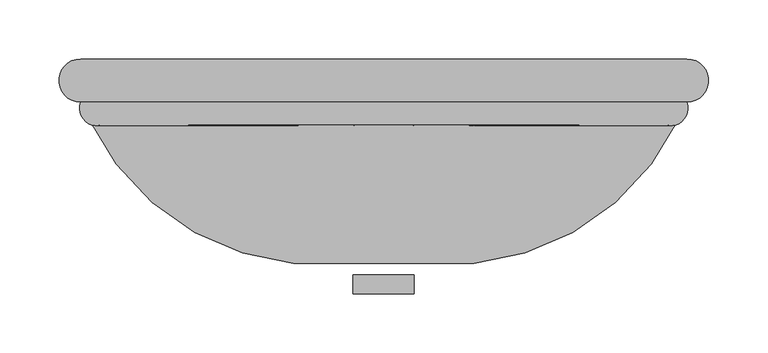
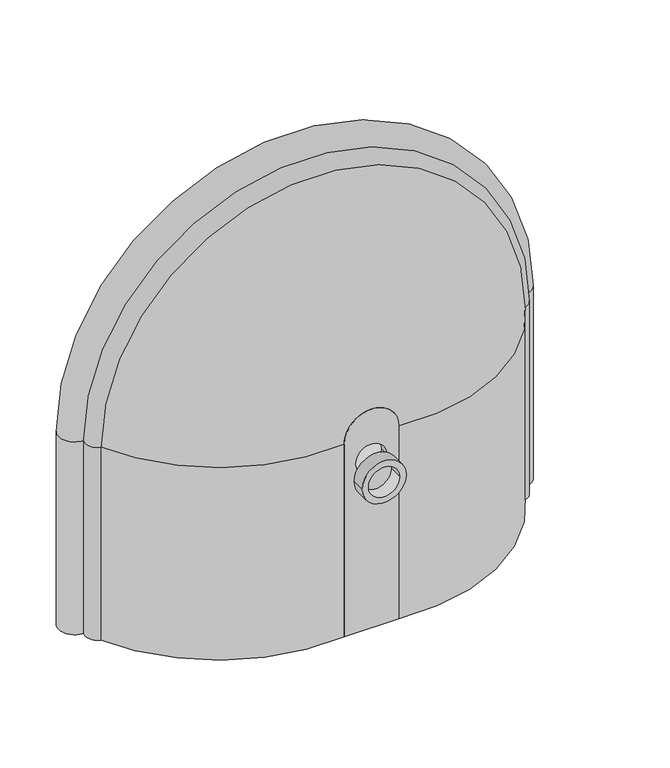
"""IFC4 building model written with IfcOpenShell, lengths in millimetres: flow terminal geometry, Deca_Lavatorio Belle Epoque_L.2_Coluna : Pia Banho."""

from ifc_helpers import new_model, si_unit, point, frame, frame_2d, origin, place, context, project, spatial, polyline, circle_curve, ellipse_curve, trimmed, segment, composite_curve, outline, extrude, source, transform, mapped, element, save
from ifc_brep_helpers import plane_surface, cylinder_surface, revolved_surface, advanced_brep


def flow_terminal_b1bb3d39(model_context):
    return source(origin(), model_context, "Body", "SolidModel", [
        extrude(outline(composite_curve([segment(polyline([(0.0, -31.8383106), (0.0, 32.1836787), (237.4079593, 32.1836787)]), True, "CONTINUOUS"), segment(trimmed(circle_curve(frame_2d((237.4079593, 0.172684)), 32.0109946), [point((237.4079593, 32.1836787))], [point((237.4079593, -31.8383106))], False, "CARTESIAN"), True, "CONTINUOUS"), segment(polyline([(237.4079593, -31.8383106), (0.0, -31.8383106)]), True, "CONTINUOUS")], self_intersect=False), holes=[composite_curve([segment(trimmed(circle_curve(frame_2d((208.1351035, -0.15625)), 18.1370047), [point((208.1351035, -18.2932547))], [point((208.1351035, 17.9807547))], True, "CARTESIAN"), True, "CONTINUOUS"), segment(trimmed(circle_curve(frame_2d((208.1351035, -0.15625)), 18.1370047), [point((208.1351035, 17.9807547))], [point((208.1351035, -18.2932547))], True, "CARTESIAN"), True, "CONTINUOUS")], self_intersect=False)]), frame((0.0, -155.6536343, 0.0), z_axis=(0.0, 1.0, 0.0), x_axis=(0.0, 0.0, 1.0)), (0.0, 0.0, 1.0), 10.0566519),
        extrude(outline(composite_curve([segment(trimmed(circle_curve(frame_2d((-54.2505718, 59.6905373)), 206.5073248), [point((-31.8383106, -145.5969824))], [point((-249.8810518, -6.4456139))], False, "CARTESIAN"), True, "CONTINUOUS"), segment(polyline([(-249.8810518, -6.4456139), (250.2264198, -6.4456139)]), True, "CONTINUOUS"), segment(trimmed(circle_curve(frame_2d((54.5959398, 59.6905373)), 206.5073248), [point((250.2264198, -6.4456139))], [point((32.1836787, -145.5969824))], False, "CARTESIAN"), True, "CONTINUOUS"), segment(polyline([(32.1836787, -145.5969824), (-31.8383106, -145.5969824)]), True, "CONTINUOUS")], self_intersect=False)), frame((0.0, 0.0, 133.7714132), z_axis=(0.0, 0.0, 1.0), x_axis=(1.0, 0.0, 0.0)), (0.0, 0.0, 1.0), 14.0347051),
        extrude(outline(polyline([(0.0, 238.8226147), (147.8061183, 238.8226147), (147.8061183, -238.6483189), (0.0, -238.6483189), (0.0, 238.8226147)]), holes=[composite_curve([segment(trimmed(circle_curve(frame_2d((71.34, -99.8252653)), 17.4), [point((71.34, -117.2252653))], [point((71.34, -82.4252653))], True, "CARTESIAN"), True, "CONTINUOUS"), segment(trimmed(circle_curve(frame_2d((71.34, -99.8252653)), 17.4), [point((71.34, -82.4252653))], [point((71.34, -117.2252653))], True, "CARTESIAN"), True, "CONTINUOUS")], self_intersect=False), composite_curve([segment(trimmed(circle_curve(frame_2d((71.34, 0.1747347)), 17.4959), [point((71.34, -17.3211653))], [point((71.34, 17.6706347))], True, "CARTESIAN"), True, "CONTINUOUS"), segment(trimmed(circle_curve(frame_2d((71.34, 0.1747347)), 17.4959), [point((71.34, 17.6706347))], [point((71.34, -17.3211653))], True, "CARTESIAN"), True, "CONTINUOUS")], self_intersect=False), composite_curve([segment(trimmed(circle_curve(frame_2d((71.34, 100.1747347)), 17.4), [point((71.34, 82.7747347))], [point((71.34, 117.5747347))], True, "CARTESIAN"), True, "CONTINUOUS"), segment(trimmed(circle_curve(frame_2d((71.34, 100.1747347)), 17.4), [point((71.34, 117.5747347))], [point((71.34, 82.7747347))], True, "CARTESIAN"), True, "CONTINUOUS")], self_intersect=False)]), frame((0.0, -6.4456139, 0.0), z_axis=(0.0, 1.0, 0.0), x_axis=(0.0, 0.0, 1.0)), (0.0, 0.0, 1.0), 24.2703353),
        advanced_brep(
        [(-31.8383106, -155.6536343, 0.0), (-249.6210256, -33.6143792, 0.0), (-238.4772467, -33.6143792, 0.0), (-31.8383106, -145.5969824, 0.0), (-31.8383106, -155.6536343, 237.4079593), (-249.6210256, -33.6143792, 237.4079593), (249.9663937, -33.6143792, 237.4079593), (249.9663937, -33.6143792, 0.0), (238.8226147, -33.6143792, 0.0), (238.8226147, -33.6143792, 237.4079593), (-238.4772467, -33.6143792, 237.4079593), (-31.8383106, -145.5969824, 237.4079593), (32.1836787, -155.6536343, 237.4079593), (32.1836787, -145.5969824, 237.4079593), (32.1836787, -155.6536343, 0.0), (32.1836787, -145.5969824, 0.0)],
        [
            (0, 1, circle_curve(frame((-54.2505718, 59.6905373, 0.0), z_axis=(0.0, 0.0, -1.0), x_axis=(0.0, -1.0, 0.0)), 216.5073248)),
            (1, 2),
            (2, 3, circle_curve(frame((-54.2505718, 59.6905373, 0.0), z_axis=(0.0, 0.0, 1.0), x_axis=(0.0, -1.0, 0.0)), 206.5073248)),
            (3, 0),
            (0, 4),
            (4, 5, circle_curve(frame((-54.2505718, 59.6905373, 237.4079593), z_axis=(0.0, 0.0, -1.0), x_axis=(0.0, -1.0, 0.0)), 216.5073248)),
            (5, 1),
            (5, 6, circle_curve(frame((0.172684, -33.6143792, 237.4079593), z_axis=(0.0, 1.0, 0.0), x_axis=(-1.0, 0.0, 0.0)), 249.7937097)),
            (6, 7),
            (7, 8),
            (8, 9),
            (9, 10, circle_curve(frame((0.172684, -33.6143792, 237.4079593), z_axis=(0.0, -1.0, 0.0), x_axis=(-1.0, 0.0, 0.0)), 238.6499307)),
            (10, 2),
            (10, 11, circle_curve(frame((-54.2505718, 59.6905373, 237.4079593), z_axis=(0.0, 0.0, 1.0), x_axis=(0.0, -1.0, 0.0)), 206.5073248)),
            (11, 3),
            (11, 4),
            (4, 12, circle_curve(frame((0.172684, -155.6536343, 237.4079593), z_axis=(0.0, 1.0, 0.0), x_axis=(-1.0, 0.0, 0.0)), 32.0109946)),
            (12, 6, circle_curve(frame((54.5959398, 59.6905373, 237.4079593), z_axis=(0.0, 0.0, 1.0), x_axis=(0.0, -1.0, 0.0)), 216.5073248)),
            (13, 11, circle_curve(frame((0.172684, -145.5969824, 237.4079593), z_axis=(0.0, -1.0, 0.0), x_axis=(-1.0, 0.0, 0.0)), 32.0109946)),
            (9, 13, circle_curve(frame((54.5959398, 59.6905373, 237.4079593), z_axis=(0.0, 0.0, -1.0), x_axis=(0.0, -1.0, 0.0)), 206.5073248)),
            (13, 12),
            (14, 15),
            (15, 8, circle_curve(frame((54.5959398, 59.6905373, 0.0), z_axis=(0.0, 0.0, 1.0), x_axis=(0.0, -1.0, 0.0)), 206.5073248)),
            (7, 14, circle_curve(frame((54.5959398, 59.6905373, 0.0), z_axis=(0.0, 0.0, -1.0), x_axis=(0.0, -1.0, 0.0)), 216.5073248)),
            (12, 14),
            (15, 13),
        ],
        [
            plane_surface(frame((-247.3983189, -6.4456139, 0.0), z_axis=(0.0, 0.0, -1.0), x_axis=(0.0, 1.0, 0.0))),
            cylinder_surface(frame((-54.2505718, 59.6905373, 0.0), z_axis=(0.0, 0.0, -1.0), x_axis=(0.0, -1.0, 0.0)), 216.5073248),
            plane_surface(frame((-249.6210256, -33.6143792, 0.0), z_axis=(0.0, 1.0, 0.0), x_axis=(0.0, 0.0, 1.0))),
            revolved_surface(polyline([(-54.2505718, -146.81678749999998, 237.4079593), (-54.2505718, -146.81678749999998, 0.0)]), (-54.2505718, 59.6905373, 0.0), (0.0, 0.0, 1.0)),
            plane_surface(frame((-31.8383106, -145.5969824, 0.0), z_axis=(1.0, 0.0, 0.0), x_axis=(0.0, 0.0, 1.0))),
            revolved_surface(trimmed(ellipse_curve(frame((-54.2505718, 59.6905373, 237.4079593), z_axis=(0.0, 0.0, -1.0), x_axis=(0.0, -1.0, 0.0)), 216.5073248, 216.5073248), [point((-31.8383106, -155.6536343, 237.4079593))], [point((-249.6210256, -33.6143792, 237.4079593))], True, "CARTESIAN"), (0.172684, -6.4456139, 237.4079593), (0.0, 1.0, 0.0)),
            revolved_surface(trimmed(ellipse_curve(frame((-54.2505718, 59.6905373, 237.4079593), z_axis=(0.0, 0.0, 1.0), x_axis=(0.0, -1.0, 0.0)), 206.5073248, 206.5073248), [point((-238.4772467, -33.6143792, 237.4079593))], [point((-31.8383106, -145.5969824, 237.4079593))], True, "CARTESIAN"), (0.172684, -6.4456139, 237.4079593), (0.0, 1.0, 0.0)),
            revolved_surface(polyline([(-31.838310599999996, -145.5969824, 237.4079593), (-31.838310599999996, -155.6536343, 237.4079593)]), (0.172684, -6.4456139, 237.4079593), (0.0, 1.0, 0.0)),
            plane_surface(frame((247.7436869, -6.4456139, 0.0), z_axis=(0.0, 0.0, -1.0), x_axis=(0.0, 1.0, 0.0))),
            cylinder_surface(frame((54.5959398, 59.6905373, 237.4079593), z_axis=(0.0, 0.0, 1.0), x_axis=(0.0, -1.0, 0.0)), 216.5073248),
            revolved_surface(polyline([(54.5959398, -146.81678749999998, 0.0), (54.5959398, -146.81678749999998, 237.4079593)]), (54.5959398, 59.6905373, 237.4079593), (0.0, 0.0, -1.0)),
            plane_surface(frame((32.1836787, -145.5969824, 237.4079593), z_axis=(-1.0, 0.0, 0.0), x_axis=(0.0, 0.0, -1.0))),
        ],
        [
            (0, [[1, 2, 3, 4]]),
            (1, [[-1, 5, 6, 7]]),
            (2, [[-2, -7, 8, 9, 10, 11, 12, 13]]),
            (3, [[-3, -13, 14, 15]]),
            (4, [[-4, -15, 16, -5]]),
            (5, [[-8, -6, 17, 18]]),
            (6, [[19, -14, -12, 20]]),
            (7, [[-17, -16, -19, 21]]),
            (8, [[22, 23, -10, 24]]),
            (9, [[-18, 25, -24, -9]]),
            (10, [[-20, -11, -23, 26]]),
            (11, [[-21, -26, -22, -25]]),
        ],
    ),
        advanced_brep(
        [(-256.8921894, -18.6672977, 0.0), (-256.8921894, 17.8247214, 0.0), (-238.6483189, 17.8247214, 0.0), (-238.6483189, -38.378303, 0.0), (257.2375574, -18.6672977, 0.0), (238.9936869, -38.378303, 0.0), (238.9936869, 17.8247214, 0.0), (257.2375574, 17.8247214, 0.0), (-256.8921894, -18.6672977, 237.4079593), (-256.8921894, 17.8247214, 237.4079593), (257.2375574, 17.8247214, 237.4079593), (238.9936869, 17.8247214, 237.4079593), (-238.6483189, 17.8247214, 237.4079593), (-238.6483189, -38.378303, 237.4079593), (257.2375574, -18.6672977, 237.4079593), (238.9936869, -38.378303, 237.4079593)],
        [
            (0, 1, circle_curve(frame((-256.8921894, -0.4212881, 0.0), z_axis=(0.0, 0.0, -1.0), x_axis=(0.0, -1.0, 0.0)), 18.2460096)),
            (1, 2),
            (2, 3),
            (3, 0, circle_curve(frame((-242.6160924, -23.7522746, 0.0), z_axis=(0.0, 0.0, -1.0), x_axis=(0.0, -1.0, 0.0)), 15.1546671)),
            (4, 5, circle_curve(frame((242.9614604, -23.7522746, 0.0), z_axis=(0.0, 0.0, -1.0), x_axis=(0.0, -1.0, 0.0)), 15.1546671)),
            (5, 6),
            (6, 7),
            (7, 4, circle_curve(frame((257.2375574, -0.4212881, 0.0), z_axis=(0.0, 0.0, -1.0), x_axis=(0.0, -1.0, 0.0)), 18.2460096)),
            (0, 8),
            (8, 9, circle_curve(frame((-256.8921894, -0.4212881, 237.4079593), z_axis=(0.0, 0.0, -1.0), x_axis=(0.0, -1.0, 0.0)), 18.2460096)),
            (9, 1),
            (9, 10, circle_curve(frame((0.172684, 17.8247214, 237.4079593), z_axis=(0.0, 1.0, 0.0), x_axis=(-1.0, 0.0, 0.0)), 257.0648734)),
            (10, 7),
            (6, 11),
            (11, 12, circle_curve(frame((0.172684, 17.8247214, 237.4079593), z_axis=(0.0, -1.0, 0.0), x_axis=(-1.0, 0.0, 0.0)), 238.8210029)),
            (12, 2),
            (12, 13),
            (13, 3),
            (13, 8, circle_curve(frame((-242.6160924, -23.7522746, 237.4079593), z_axis=(0.0, 0.0, -1.0), x_axis=(0.0, -1.0, 0.0)), 15.1546671)),
            (8, 14, circle_curve(frame((0.172684, -18.6672977, 237.4079593), z_axis=(0.0, 1.0, 0.0), x_axis=(-1.0, 0.0, 0.0)), 257.0648734)),
            (14, 10, circle_curve(frame((257.2375574, -0.4212881, 237.4079593), z_axis=(0.0, 0.0, 1.0), x_axis=(0.0, -1.0, 0.0)), 18.2460096)),
            (15, 13, circle_curve(frame((0.172684, -38.378303, 237.4079593), z_axis=(0.0, -1.0, 0.0), x_axis=(-1.0, 0.0, 0.0)), 238.8210029)),
            (11, 15),
            (15, 14, circle_curve(frame((242.9614604, -23.7522746, 237.4079593), z_axis=(0.0, 0.0, 1.0), x_axis=(0.0, -1.0, 0.0)), 15.1546671)),
            (14, 4),
            (5, 15),
        ],
        [
            plane_surface(frame((-274.4418821, -6.4456139, 0.0), z_axis=(0.0, 0.0, -1.0), x_axis=(0.0, 1.0, 0.0))),
            plane_surface(frame((274.7872501, -6.4456139, 0.0), z_axis=(0.0, 0.0, -1.0), x_axis=(0.0, 1.0, 0.0))),
            cylinder_surface(frame((-256.8921894, -0.4212881, 0.0), z_axis=(0.0, 0.0, -1.0), x_axis=(0.0, -1.0, 0.0)), 18.2460096),
            plane_surface(frame((-256.8921894, 17.8247214, 0.0), z_axis=(0.0, 1.0, 0.0), x_axis=(0.0, 0.0, 1.0))),
            plane_surface(frame((-238.6483189, 17.8247214, 0.0), z_axis=(1.0, 0.0, 0.0), x_axis=(0.0, 0.0, 1.0))),
            cylinder_surface(frame((-242.6160924, -23.7522746, 0.0), z_axis=(0.0, 0.0, -1.0), x_axis=(0.0, -1.0, 0.0)), 15.1546671),
            revolved_surface(trimmed(ellipse_curve(frame((-256.8921894, -0.4212881, 237.4079593), z_axis=(0.0, 0.0, -1.0), x_axis=(0.0, -1.0, 0.0)), 18.2460096, 18.2460096), [point((-256.8921894, -18.6672977, 237.4079593))], [point((-256.8921894, 17.8247214, 237.4079593))], True, "CARTESIAN"), (0.172684, -6.4456139, 237.4079593), (0.0, 1.0, 0.0)),
            revolved_surface(polyline([(-238.6483189, 17.8247214, 237.4079593), (-238.6483189, -38.378303, 237.4079593)]), (0.172684, -6.4456139, 237.4079593), (0.0, 1.0, 0.0)),
            revolved_surface(trimmed(ellipse_curve(frame((-242.6160924, -23.7522746, 237.4079593), z_axis=(0.0, 0.0, -1.0), x_axis=(0.0, -1.0, 0.0)), 15.1546671, 15.1546671), [point((-238.6483189, -38.378303, 237.4079593))], [point((-256.8921894, -18.6672977, 237.4079593))], True, "CARTESIAN"), (0.172684, -6.4456139, 237.4079593), (0.0, 1.0, 0.0)),
            cylinder_surface(frame((257.2375574, -0.4212881, 237.4079593), z_axis=(0.0, 0.0, 1.0), x_axis=(0.0, -1.0, 0.0)), 18.2460096),
            plane_surface(frame((238.9936869, 17.8247214, 237.4079593), z_axis=(-1.0, 0.0, 0.0), x_axis=(0.0, 0.0, -1.0))),
            cylinder_surface(frame((242.9614604, -23.7522746, 237.4079593), z_axis=(0.0, 0.0, 1.0), x_axis=(0.0, -1.0, 0.0)), 15.1546671),
        ],
        [
            (0, [[1, 2, 3, 4]]),
            (1, [[5, 6, 7, 8]]),
            (2, [[-1, 9, 10, 11]]),
            (3, [[-2, -11, 12, 13, -7, 14, 15, 16]]),
            (4, [[-3, -16, 17, 18]]),
            (5, [[-4, -18, 19, -9]]),
            (6, [[-12, -10, 20, 21]]),
            (7, [[22, -17, -15, 23]]),
            (8, [[-20, -19, -22, 24]]),
            (9, [[-21, 25, -8, -13]]),
            (10, [[-23, -14, -6, 26]]),
            (11, [[-24, -26, -5, -25]]),
        ],
    ),
        extrude(outline(composite_curve([segment(trimmed(circle_curve(frame_2d((195.3061183, 0.0)), 25.6868702), [point((195.3061183, -25.6868702))], [point((195.3061183, 25.6868702))], False, "CARTESIAN"), True, "CONTINUOUS"), segment(trimmed(circle_curve(frame_2d((195.3061183, 0.0)), 25.6868702), [point((195.3061183, 25.6868702))], [point((195.3061183, -25.6868702))], False, "CARTESIAN"), True, "CONTINUOUS")], self_intersect=False), holes=[composite_curve([segment(trimmed(circle_curve(frame_2d((195.3061183, 0.0)), 18.1370047), [point((195.3061183, -18.1370047))], [point((195.3061183, 18.1370047))], True, "CARTESIAN"), True, "CONTINUOUS"), segment(trimmed(circle_curve(frame_2d((195.3061183, 0.0)), 18.1370047), [point((195.3061183, 18.1370047))], [point((195.3061183, -18.1370047))], True, "CARTESIAN"), True, "CONTINUOUS")], self_intersect=False)]), frame((0.0, -181.4456139, 0.0), z_axis=(0.0, 1.0, 0.0), x_axis=(0.0, 0.0, 1.0)), (0.0, 0.0, 1.0), 16.2474886),
        extrude(outline(composite_curve([segment(trimmed(circle_curve(frame_2d((71.34, -99.8252653)), 17.4), [point((71.34, -117.2252653))], [point((71.34, -82.4252653))], False, "CARTESIAN"), True, "CONTINUOUS"), segment(trimmed(circle_curve(frame_2d((71.34, -99.8252653)), 17.4), [point((71.34, -82.4252653))], [point((71.34, -117.2252653))], False, "CARTESIAN"), True, "CONTINUOUS")], self_intersect=False)), frame((0.0, -6.4456139, 0.0), z_axis=(0.0, 1.0, 0.0), x_axis=(0.0, 0.0, 1.0)), (0.0, 0.0, 1.0), 24.2703353),
        extrude(outline(composite_curve([segment(trimmed(circle_curve(frame_2d((71.34, 100.1747347)), 17.4), [point((71.34, 82.7747347))], [point((71.34, 117.5747347))], False, "CARTESIAN"), True, "CONTINUOUS"), segment(trimmed(circle_curve(frame_2d((71.34, 100.1747347)), 17.4), [point((71.34, 117.5747347))], [point((71.34, 82.7747347))], False, "CARTESIAN"), True, "CONTINUOUS")], self_intersect=False)), frame((0.0, -6.4456139, 0.0), z_axis=(0.0, 1.0, 0.0), x_axis=(0.0, 0.0, 1.0)), (0.0, 0.0, 1.0), 24.2703353),
        extrude(outline(composite_curve([segment(trimmed(circle_curve(frame_2d((71.34, 0.1747347)), 17.4959), [point((71.34, -17.3211653))], [point((71.34, 17.6706347))], False, "CARTESIAN"), True, "CONTINUOUS"), segment(trimmed(circle_curve(frame_2d((71.34, 0.1747347)), 17.4959), [point((71.34, 17.6706347))], [point((71.34, -17.3211653))], False, "CARTESIAN"), True, "CONTINUOUS")], self_intersect=False)), frame((0.0, -6.4456139, 0.0), z_axis=(0.0, 1.0, 0.0), x_axis=(0.0, 0.0, 1.0)), (0.0, 0.0, 1.0), 24.2703353),
    ])


if __name__ == "__main__":
    model = new_model("IFC4")
    model_context = context("Model", 3, world=origin())
    ifc_project = project(units=[si_unit("LENGTHUNIT", "METRE", prefix="MILLI")], contexts=[model_context])
    site = spatial("IfcSite", under=ifc_project)
    building = spatial("IfcBuilding", under=site)
    placement = place(None, origin())
    flow_terminal_shape = flow_terminal_b1bb3d39(model_context)
    element("IfcFlowTerminal", 1, ObjectType="Deca_Lavatorio Belle Epoque_L.2_Coluna : Pia Banho", at=placement, inside=building, context=model_context, shape_type="MappedRepresentation", body=[
        mapped(flow_terminal_shape, transform((0.0, 0.0, 0.0), x_axis=(1.0, 0.0, 0.0), y_axis=(0.0, 1.0, 0.0), z_axis=(0.0, 0.0, 1.0))),
    ])
    save(model, "model.ifc")
